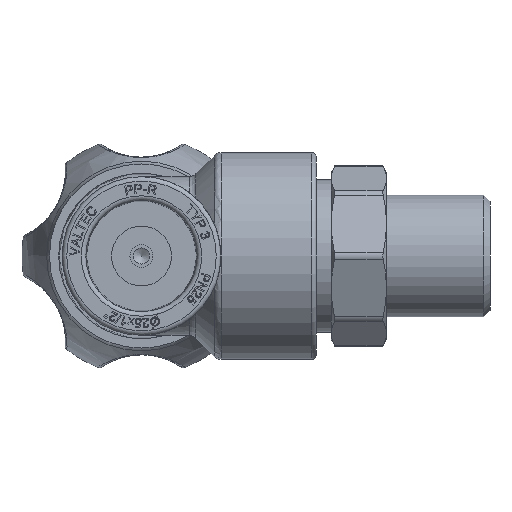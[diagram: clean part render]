
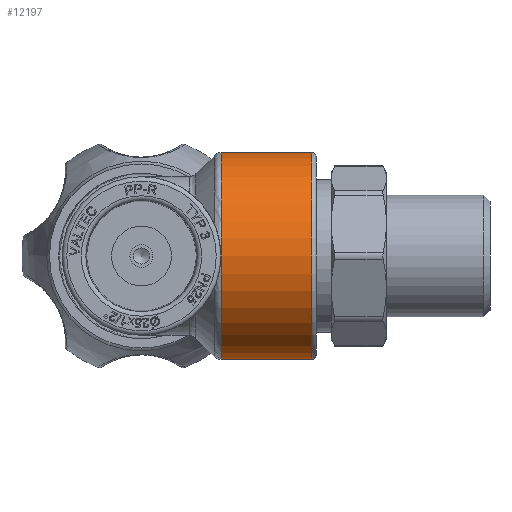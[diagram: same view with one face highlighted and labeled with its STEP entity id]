
A CAD part, front view. The second image highlights one B-rep face of the part: STEP entity #12197.
In plain terms, the highlighted cylindrical face has radius 22.5 mm (diameter 45 mm), a full revolution.
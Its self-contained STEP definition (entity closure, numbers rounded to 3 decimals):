
#160=CIRCLE('',#12790,22.5);
#161=CIRCLE('',#12791,22.5);
#162=CIRCLE('',#12792,22.5);
#163=CIRCLE('',#12793,22.5);
#164=CIRCLE('',#12794,22.5);
#165=CIRCLE('',#12795,22.5);
#376=CYLINDRICAL_SURFACE('',#12789,22.5);
#1540=FACE_OUTER_BOUND('',#2260,.T.);
#2260=EDGE_LOOP('',(#10648,#10649,#10650,#10651,#10652,#10653,#10654,#10655));
#3487=LINE('',#22164,#4640);
#4640=VECTOR('',#15131,22.5);
#5693=VERTEX_POINT('',#22157);
#5694=VERTEX_POINT('',#22158);
#5695=VERTEX_POINT('',#22160);
#5696=VERTEX_POINT('',#22163);
#5697=VERTEX_POINT('',#22165);
#5698=VERTEX_POINT('',#22167);
#7399=EDGE_CURVE('',#5693,#5694,#160,.T.);
#7400=EDGE_CURVE('',#5695,#5693,#161,.T.);
#7401=EDGE_CURVE('',#5694,#5695,#162,.T.);
#7402=EDGE_CURVE('',#5694,#5696,#3487,.T.);
#7403=EDGE_CURVE('',#5696,#5697,#163,.T.);
#7404=EDGE_CURVE('',#5697,#5698,#164,.T.);
#7405=EDGE_CURVE('',#5698,#5696,#165,.T.);
#10648=ORIENTED_EDGE('',*,*,#7399,.F.);
#10649=ORIENTED_EDGE('',*,*,#7400,.F.);
#10650=ORIENTED_EDGE('',*,*,#7401,.F.);
#10651=ORIENTED_EDGE('',*,*,#7402,.T.);
#10652=ORIENTED_EDGE('',*,*,#7403,.T.);
#10653=ORIENTED_EDGE('',*,*,#7404,.T.);
#10654=ORIENTED_EDGE('',*,*,#7405,.T.);
#10655=ORIENTED_EDGE('',*,*,#7402,.F.);
#12197=ADVANCED_FACE('',(#1540),#376,.T.);
#12789=AXIS2_PLACEMENT_3D('',#22156,#15123,#15124);
#12790=AXIS2_PLACEMENT_3D('',#22159,#15125,#15126);
#12791=AXIS2_PLACEMENT_3D('',#22161,#15127,#15128);
#12792=AXIS2_PLACEMENT_3D('',#22162,#15129,#15130);
#12793=AXIS2_PLACEMENT_3D('',#22166,#15132,#15133);
#12794=AXIS2_PLACEMENT_3D('',#22168,#15134,#15135);
#12795=AXIS2_PLACEMENT_3D('',#22169,#15136,#15137);
#15123=DIRECTION('center_axis',(-1.,0.,0.));
#15124=DIRECTION('ref_axis',(0.,-1.,0.));
#15125=DIRECTION('center_axis',(-1.,0.,0.));
#15126=DIRECTION('ref_axis',(0.,0.,1.));
#15127=DIRECTION('center_axis',(-1.,0.,0.));
#15128=DIRECTION('ref_axis',(0.,0.,1.));
#15129=DIRECTION('center_axis',(-1.,0.,0.));
#15130=DIRECTION('ref_axis',(0.,0.,1.));
#15131=DIRECTION('',(1.,0.,0.));
#15132=DIRECTION('center_axis',(-1.,0.,0.));
#15133=DIRECTION('ref_axis',(0.,0.,1.));
#15134=DIRECTION('center_axis',(-1.,0.,0.));
#15135=DIRECTION('ref_axis',(0.,0.,1.));
#15136=DIRECTION('center_axis',(-1.,0.,0.));
#15137=DIRECTION('ref_axis',(0.,0.,1.));
#22156=CARTESIAN_POINT('Origin',(27.137,0.,0.));
#22157=CARTESIAN_POINT('',(17.301,-22.5,0.));
#22158=CARTESIAN_POINT('',(17.301,22.5,0.));
#22159=CARTESIAN_POINT('Origin',(17.301,0.,0.));
#22160=CARTESIAN_POINT('',(17.301,0.,-22.5));
#22161=CARTESIAN_POINT('Origin',(17.301,0.,0.));
#22162=CARTESIAN_POINT('Origin',(17.301,0.,0.));
#22163=CARTESIAN_POINT('',(36.972,22.5,0.));
#22164=CARTESIAN_POINT('',(27.137,22.5,0.));
#22165=CARTESIAN_POINT('',(36.972,0.,-22.5));
#22166=CARTESIAN_POINT('Origin',(36.972,0.,0.));
#22167=CARTESIAN_POINT('',(36.972,-22.5,0.));
#22168=CARTESIAN_POINT('Origin',(36.972,0.,0.));
#22169=CARTESIAN_POINT('Origin',(36.972,0.,0.));
